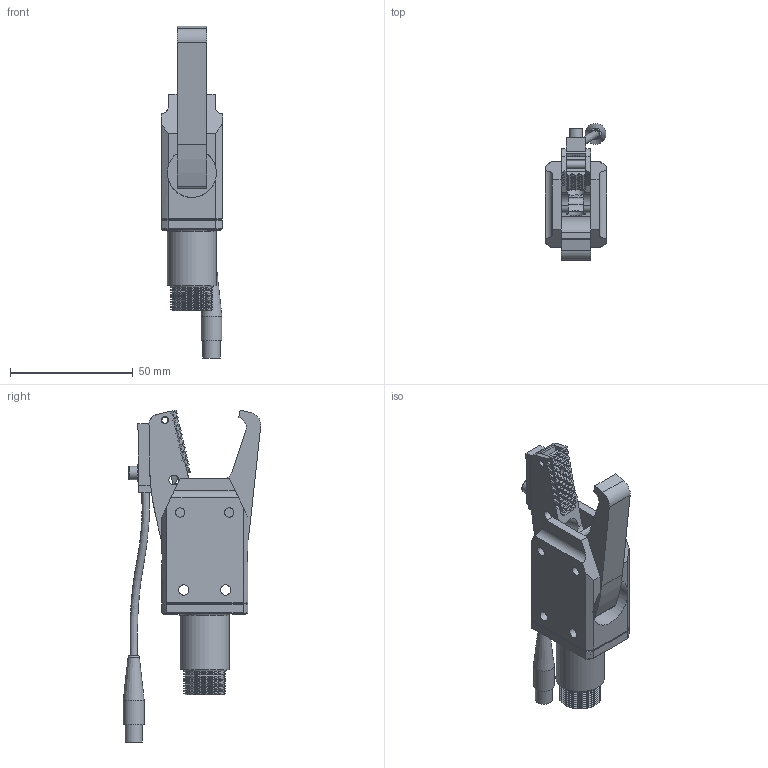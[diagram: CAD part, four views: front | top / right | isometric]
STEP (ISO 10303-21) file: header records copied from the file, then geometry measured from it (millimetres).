
FILE_DESCRIPTION (( 'STEP AP214' ), '1' );
FILE_NAME ('3888.STEP', '2021-08-27T15:20:37', ( '' ), ( '' ), 'SwSTEP 2.0', 'SolidWorks 2020', '' );
FILE_SCHEMA (( 'AUTOMOTIVE_DESIGN' ));
Length unit declared in the file: millimetre
Products named in the file (1): 3888
Bounding box: 25.12 x 55.92 x 135.01 mm (x, y, z)
Volume: 52462 mm3; surface area: 31872.7 mm2
Topology: 24 solids, 24 shells, 717 faces, 1571 edges, 925 vertices
Faces by surface type: plane 513, cylinder 144, cone 51, torus 8, bspline 1
Full cylindrical faces by diameter (mm): 2.5 x6, 2.9 x1, 3 x9, 3.4 x5, 3.5 x5, 3.8 x7, 4 x2, 4.2 x7, 4.201 x3, 5 x3, 5.001 x1, 5.5 x11, 6 x6, 7 x3, 7.9 x2, 8 x2, 8.3 x1, 8.5 x1, 10 x2, 12 x1, 16.001 x9, 17 x9, 17.001 x1, 20 x3
Entity records: 19767 total; most frequent: CARTESIAN_POINT 3767, DIRECTION 3063, ORIENTED_EDGE 2792, EDGE_CURVE 1396, AXIS2_PLACEMENT_3D 1029, VECTOR 1005, LINE 1005, EDGE_LOOP 950
